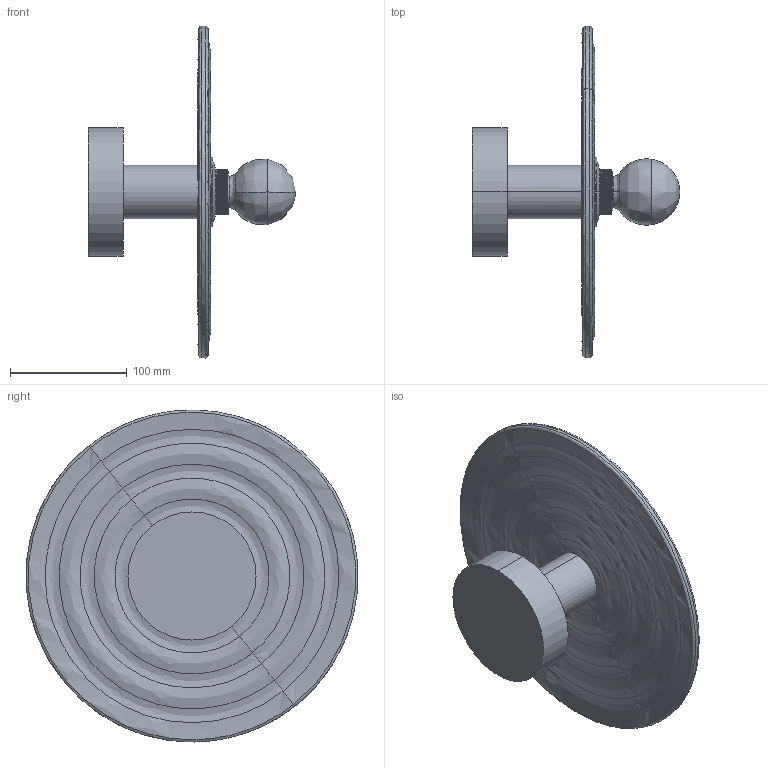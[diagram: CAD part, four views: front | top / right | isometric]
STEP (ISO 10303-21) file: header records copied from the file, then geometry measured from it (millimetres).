
FILE_DESCRIPTION (( 'STEP AP214' ), '1' );
FILE_NAME ('1094-30.STEP', '2026-06-09T10:15:02', ( '' ), ( '' ), 'SwSTEP 2.0', 'SolidWorks 2023', '' );
FILE_SCHEMA (( 'AUTOMOTIVE_DESIGN' ));
Length unit declared in the file: inch
Products named in the file (1): 1094-30
Bounding box: 178.15 x 284.64 x 284.96 mm (x, y, z)
Surface area: 229304.5 mm2 (no closed solid volume)
Topology: 0 solids, 9 shells, 452 faces, 1240 edges, 797 vertices
Faces by surface type: bspline 447, plane 3, cylinder 2
Entity records: 64704 total; most frequent: CARTESIAN_POINT 57907, ORIENTED_EDGE 2468, EDGE_CURVE 1238, VERTEX_POINT 797, B_SPLINE_CURVE_WITH_KNOTS 710, EDGE_LOOP 461, ADVANCED_FACE 452, FACE_OUTER_BOUND 452
